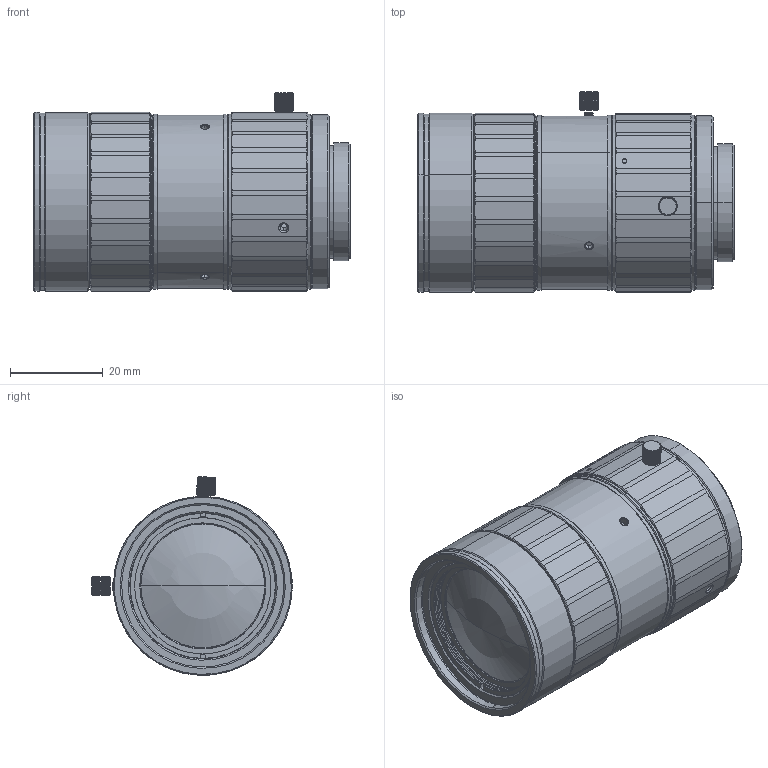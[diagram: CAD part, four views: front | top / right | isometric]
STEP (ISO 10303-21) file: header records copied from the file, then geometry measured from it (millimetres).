
FILE_DESCRIPTION((''),'2;1');
FILE_NAME('FA1840M25Q1_2_ASM','2025-02-25T11:25:44',('re_ay'),(''),'CREO PARAMETRIC BY PTC INC, 2023073','CREO PARAMETRIC BY PTC INC, 2023073','');
FILE_SCHEMA(('CONFIG_CONTROL_DESIGN'));
Length unit declared in the file: metre
Products named in the file (23): FA1840M25Q1_2_1_1; FA1840M25Q1_2_2; FA1840M25Q1_2_3; FA1840M25Q1_2_4; FA1840M25Q1_2_5; FA1840M25Q1_2_6; FA1840M25Q1_2_7; FA1840M25Q1_2_8; FA1840M25Q1_2_9; FA1840M25Q1_2_10; FA1840M25Q1_2_11; FA1840M25Q1_2_12; FA1840M25Q1_2_13; FA1840M25Q1_2_14; FA1840M25Q1_2_15; FA1840M25Q1_2_16; FA1840M25Q1_2_17; FA1840M25Q1_2_18; FA1840M25Q1_2_19; FA1840M25Q1_2_20; FA1840M25Q1_2_21; FA1840M25Q1_2_1_ASM; FA1840M25Q1_2_ASM
Assembly tree (22 placements, depth 3):
  FA1840M25Q1_2_ASM
    FA1840M25Q1_2_1_ASM
      FA1840M25Q1_2_1_1
      FA1840M25Q1_2_2
      FA1840M25Q1_2_3
      FA1840M25Q1_2_4
      FA1840M25Q1_2_5
      FA1840M25Q1_2_6
      FA1840M25Q1_2_7
      FA1840M25Q1_2_8
      FA1840M25Q1_2_9
      FA1840M25Q1_2_10
      FA1840M25Q1_2_11
      FA1840M25Q1_2_12
      FA1840M25Q1_2_13
      FA1840M25Q1_2_14
      FA1840M25Q1_2_15
      FA1840M25Q1_2_16
      FA1840M25Q1_2_17
      FA1840M25Q1_2_18
      FA1840M25Q1_2_19
      FA1840M25Q1_2_20
      FA1840M25Q1_2_21
Bounding box: 68.2 x 43.25 x 42.85 mm (x, y, z)
Surface area: 14253.2 mm2 (no closed solid volume)
Topology: 0 solids, 21 shells, 628 faces, 2249 edges, 1565 vertices
Faces by surface type: plane 283, cylinder 223, cone 94, torus 12, bspline 12, sphere 4
Entity records: 31636 total; most frequent: CARTESIAN_POINT 12834, ORIENTED_EDGE 3775, DIRECTION 3690, EDGE_CURVE 2245, VERTEX_POINT 1565, AXIS2_PLACEMENT_3D 1390, VECTOR 910, LINE 910
